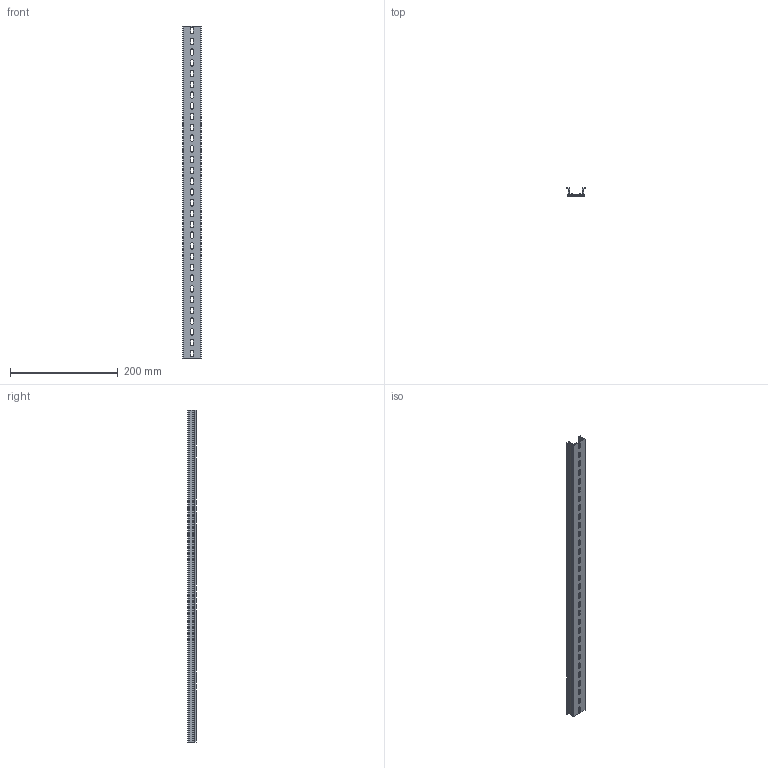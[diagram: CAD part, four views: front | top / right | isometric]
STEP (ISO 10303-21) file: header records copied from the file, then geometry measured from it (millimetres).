
FILE_DESCRIPTION(/* description */ (''),/* implementation_level */ '2;1');
FILE_NAME(/* name */ '22649-(TKB KD-31)HP 3D.stp',/* time_stamp */ '2024-12-05T14:10:45+09:00',/* author */ ('usercadg104'),/* organization */ (''),/* preprocessor_version */ 'ST-DEVELOPER v19.2',/* originating_system */ 'Autodesk Inventor 2023',/* authorisation */ '');
FILE_SCHEMA (('CONFIG_CONTROL_DESIGN'));
Length unit declared in the file: millimetre
Products named in the file (1): TKB KD-3(林)
Bounding box: 35 x 15 x 617 mm (x, y, z)
Volume: 72184.4 mm3; surface area: 83409.3 mm2
Topology: 1 solids, 1 shells, 164 faces, 486 edges, 324 vertices
Faces by surface type: plane 98, cylinder 66
Entity records: 5669 total; most frequent: CARTESIAN_POINT 975, ORIENTED_EDGE 972, DIRECTION 948, EDGE_CURVE 486, LINE 354, VECTOR 354, VERTEX_POINT 324, AXIS2_PLACEMENT_3D 297
